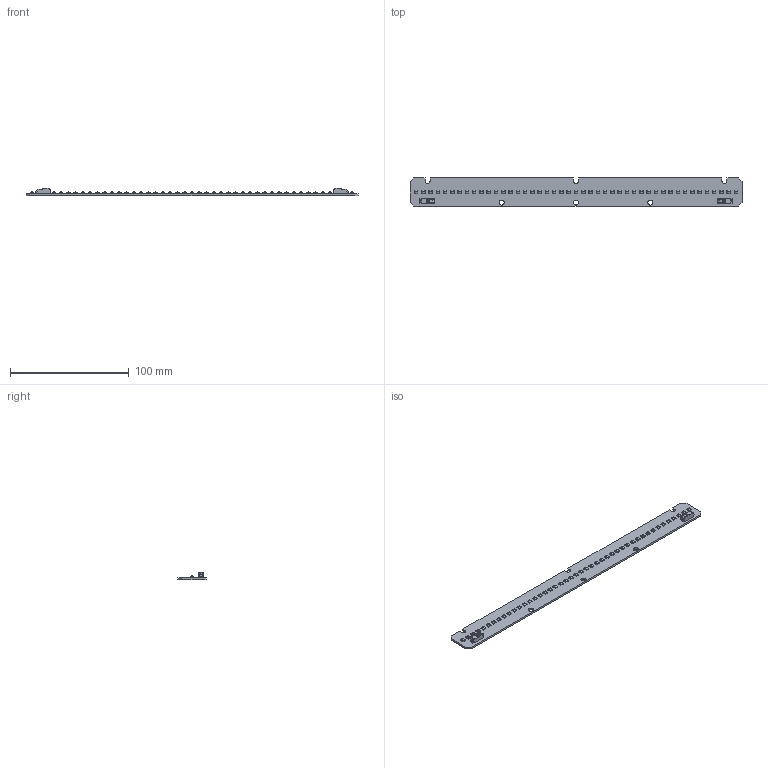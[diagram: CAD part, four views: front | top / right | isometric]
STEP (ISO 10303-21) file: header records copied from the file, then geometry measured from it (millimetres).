
FILE_DESCRIPTION((''),'2;1');
FILE_NAME('16206604_LLE-24X280-EXC','2016-06-27T',('bernhard.fink'),(''),'PRO/ENGINEER BY PARAMETRIC TECHNOLOGY CORPORATION, 2015200','PRO/ENGINEER BY PARAMETRIC TECHNOLOGY CORPORATION, 2015200','');
FILE_SCHEMA(('AUTOMOTIVE_DESIGN { 1 0 10303 214 1 1 1 1 }'));
Length unit declared in the file: millimetre
Products named in the file (1): 16206604_LLE-24X280-EXC
Bounding box: 279.6 x 23.6 x 6.15 mm (x, y, z)
Volume: 11398.2 mm3; surface area: 15955.5 mm2
Topology: 46 solids, 46 shells, 719 faces, 1595 edges, 970 vertices
Faces by surface type: plane 558, sphere 94, cylinder 67
Entity records: 29914 total; most frequent: CARTESIAN_POINT 3384, DIRECTION 3372, ORIENTED_EDGE 3182, PRESENTATION_STYLE_ASSIGNMENT 2356, STYLED_ITEM 1637, CURVE_STYLE 1591, EDGE_CURVE 1591, VECTOR 1196
